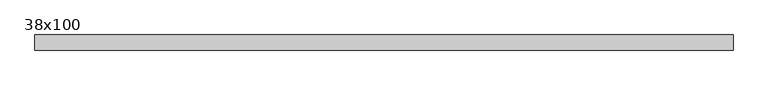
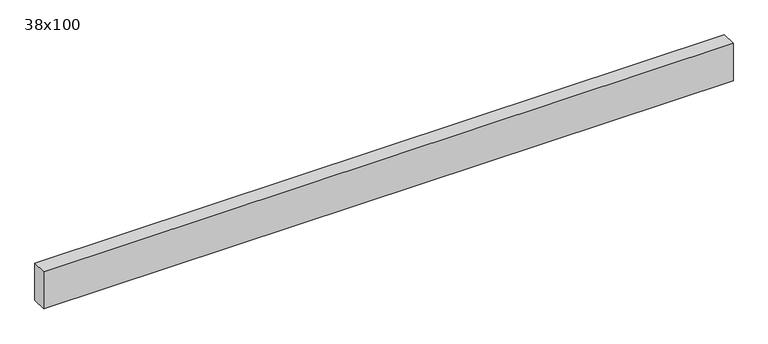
"""IFC4 building model written with IfcOpenShell, lengths in millimetres: beam geometry, Poutre - Bois de construction de dimensions courantes : 38x100."""

from ifc_helpers import new_model, si_unit, frame, origin, place, context, project, spatial, polyline, outline, extrude, source, transform, mapped, element, save


def beam_38x100_7ed123b6(model_context):
    return source(origin(), model_context, "Body", "SweptSolid", [
        extrude(outline(polyline([(800.0, 19.05), (800.0, -19.05), (-960.0, -19.05), (-960.0, 19.05), (800.0, 19.05)])), frame((0.0, 0.0, -50.0), z_axis=(0.0, 0.0, 1.0), x_axis=(1.0, 0.0, 0.0)), (0.0, 0.0, 1.0), 100.0),
    ])


if __name__ == "__main__":
    model = new_model("IFC4")
    model_context = context("Model", 3, world=origin())
    ifc_project = project(units=[si_unit("LENGTHUNIT", "METRE", prefix="MILLI")], contexts=[model_context])
    site = spatial("IfcSite", under=ifc_project)
    building = spatial("IfcBuilding", under=site)
    placement = place(None, origin())
    beam_38x100_shape = beam_38x100_7ed123b6(model_context)
    element("IfcBeam", 1, ObjectType="Poutre - Bois de construction de dimensions courantes : 38x100", at=placement, inside=building, context=model_context, shape_type="MappedRepresentation", body=[
        mapped(beam_38x100_shape, transform((0.0, 0.0, 0.0), x_axis=(1.0, 0.0, 0.0), y_axis=(0.0, 1.0, 0.0), z_axis=(0.0, 0.0, 1.0))),
    ])
    save(model, "model.ifc")
